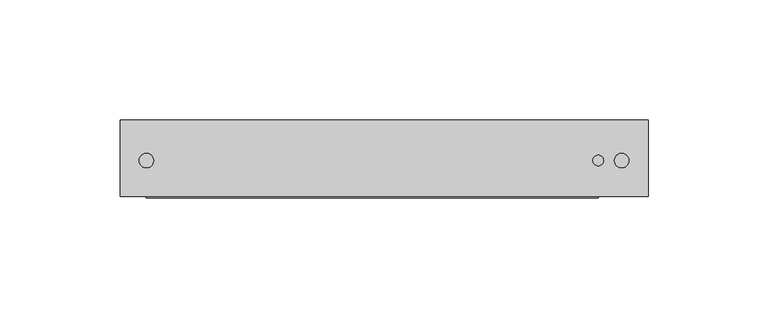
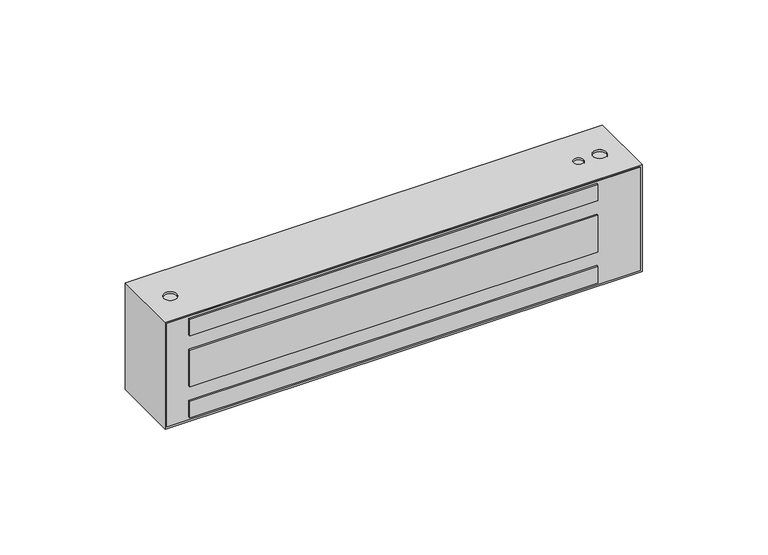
"""IFC4 building model written with IfcOpenShell, lengths in millimetres: proxy geometry, Электромагнитный_замок_ML-295K-2_с_уголком_AccordTec_R19 : Электромагнитный_замок_ML-295K-2_с_уголком_AccordTec_R19."""

from ifc_helpers import new_model, si_unit, frame, origin, place, context, project, spatial, polyline, circle_curve, outline, extrude, source, transform, mapped, element, save
from ifc_brep_helpers import plane_surface, revolved_surface, advanced_brep


def generic_models_b2814690(model_context):
    return source(origin(), model_context, "Body", "SolidModel", [
        extrude(outline(polyline([(199.25, -0.5), (11.0, -0.5), (11.0, 1.0), (199.25, 1.0), (199.25, -0.5)])), frame((0.0, 0.0, 42.0), z_axis=(0.0, 0.0, 1.0), x_axis=(1.0, 0.0, 0.0)), (0.0, 0.0, 1.0), 8.0),
        extrude(outline(polyline([(199.25, -0.5), (11.0, -0.5), (11.0, 1.0), (199.25, 1.0), (199.25, -0.5)])), frame((0.0, 0.0, 17.0), z_axis=(0.0, 0.0, 1.0), x_axis=(1.0, 0.0, 0.0)), (0.0, 0.0, 1.0), 18.0),
        extrude(outline(polyline([(199.25, -0.5), (11.0, -0.5), (11.0, 1.0), (199.25, 1.0), (199.25, -0.5)])), frame((0.0, 0.0, 2.0), z_axis=(0.0, 0.0, 1.0), x_axis=(1.0, 0.0, 0.0)), (0.0, 0.0, 1.0), 8.0),
        extrude(outline(polyline([(51.2, 0.8), (0.8, 0.8), (0.8, 219.2), (51.2, 219.2), (51.2, 0.8)]), holes=[polyline([(50.0, 11.0), (50.0, 199.25), (42.0, 199.25), (42.0, 11.0), (50.0, 11.0)]), polyline([(17.0, 11.0), (35.0, 11.0), (35.0, 199.25), (17.0, 199.25), (17.0, 11.0)]), polyline([(10.0, 11.0), (10.0, 199.25), (2.0, 199.25), (2.0, 11.0), (10.0, 11.0)])]), frame((0.0, 0.0, 0.0), z_axis=(0.0, 1.0, 0.0), x_axis=(0.0, 0.0, 1.0)), (0.0, 0.0, 1.0), 1.0),
        advanced_brep(
        [(220.0, 32.0, 52.0), (0.0, 32.0, 52.0), (0.0, 0.0, 52.0), (220.0, 0.0, 52.0), (8.0, 15.0, 52.0), (14.0, 15.0, 52.0), (197.0, 15.0, 52.0), (201.5, 15.0, 52.0), (206.0, 15.0, 52.0), (212.0, 15.0, 52.0), (220.0, 32.0, 0.0), (220.0, 0.0, 0.0), (0.0, 0.0, 0.0), (0.0, 32.0, 0.0), (203.0, 15.0, 0.0), (215.0, 15.0, 0.0), (5.0, 15.0, 0.0), (17.0, 15.0, 0.0), (0.8, 0.0, 51.2), (219.2, 0.0, 51.2), (219.2, 0.0, 0.8), (0.8, 0.0, 0.8), (203.0, 15.0, 1.0), (215.0, 15.0, 1.0), (5.0, 15.0, 1.0), (17.0, 15.0, 1.0), (219.2, 1.0, 51.2), (0.8, 1.0, 51.2), (0.8, 1.0, 0.8), (219.2, 1.0, 0.8), (8.0, 15.0, 51.0), (14.0, 15.0, 51.0), (197.0, 15.0, 51.0), (201.5, 15.0, 51.0), (206.0, 15.0, 51.0), (212.0, 15.0, 51.0)],
        [
            (0, 1),
            (1, 2),
            (2, 3),
            (3, 0),
            (4, 5, circle_curve(frame((11.0, 15.0, 52.0), z_axis=(0.0, 0.0, -1.0), x_axis=(1.0, 0.0, 0.0)), 3.0)),
            (5, 4, circle_curve(frame((11.0, 15.0, 52.0), z_axis=(0.0, 0.0, -1.0), x_axis=(1.0, 0.0, 0.0)), 3.0)),
            (6, 7, circle_curve(frame((199.25, 15.0, 52.0), z_axis=(0.0, 0.0, -1.0), x_axis=(1.0, 0.0, 0.0)), 2.25)),
            (7, 6, circle_curve(frame((199.25, 15.0, 52.0), z_axis=(0.0, 0.0, -1.0), x_axis=(1.0, 0.0, 0.0)), 2.25)),
            (8, 9, circle_curve(frame((209.0, 15.0, 52.0), z_axis=(0.0, 0.0, -1.0), x_axis=(1.0, 0.0, 0.0)), 3.0)),
            (9, 8, circle_curve(frame((209.0, 15.0, 52.0), z_axis=(0.0, 0.0, -1.0), x_axis=(1.0, 0.0, 0.0)), 3.0)),
            (10, 11),
            (11, 12),
            (12, 13),
            (13, 10),
            (14, 15, circle_curve(frame((209.0, 15.0, 0.0), z_axis=(0.0, 0.0, 1.0), x_axis=(1.0, 0.0, 0.0)), 6.0)),
            (15, 14, circle_curve(frame((209.0, 15.0, 0.0), z_axis=(0.0, 0.0, 1.0), x_axis=(1.0, 0.0, 0.0)), 6.0)),
            (16, 17, circle_curve(frame((11.0, 15.0, 0.0), z_axis=(0.0, 0.0, 1.0), x_axis=(1.0, 0.0, 0.0)), 6.0)),
            (17, 16, circle_curve(frame((11.0, 15.0, 0.0), z_axis=(0.0, 0.0, 1.0), x_axis=(1.0, 0.0, 0.0)), 6.0)),
            (0, 10),
            (13, 1),
            (12, 2),
            (11, 3),
            (18, 19),
            (19, 20),
            (20, 21),
            (21, 18),
            (22, 23, circle_curve(frame((209.0, 15.0, 1.0), z_axis=(0.0, 0.0, -1.0), x_axis=(1.0, 0.0, 0.0)), 6.0)),
            (23, 22, circle_curve(frame((209.0, 15.0, 1.0), z_axis=(0.0, 0.0, -1.0), x_axis=(1.0, 0.0, 0.0)), 6.0)),
            (24, 25, circle_curve(frame((11.0, 15.0, 1.0), z_axis=(0.0, 0.0, -1.0), x_axis=(1.0, 0.0, 0.0)), 6.0)),
            (25, 24, circle_curve(frame((11.0, 15.0, 1.0), z_axis=(0.0, 0.0, -1.0), x_axis=(1.0, 0.0, 0.0)), 6.0)),
            (23, 15),
            (14, 22),
            (25, 17),
            (16, 24),
            (26, 27),
            (27, 28),
            (28, 29),
            (29, 26),
            (26, 19),
            (18, 27),
            (21, 28),
            (20, 29),
            (30, 31, circle_curve(frame((11.0, 15.0, 51.0), z_axis=(0.0, 0.0, 1.0), x_axis=(1.0, 0.0, 0.0)), 3.0)),
            (31, 30, circle_curve(frame((11.0, 15.0, 51.0), z_axis=(0.0, 0.0, 1.0), x_axis=(1.0, 0.0, 0.0)), 3.0)),
            (32, 33, circle_curve(frame((199.25, 15.0, 51.0), z_axis=(0.0, 0.0, 1.0), x_axis=(1.0, 0.0, 0.0)), 2.25)),
            (33, 32, circle_curve(frame((199.25, 15.0, 51.0), z_axis=(0.0, 0.0, 1.0), x_axis=(1.0, 0.0, 0.0)), 2.25)),
            (34, 35, circle_curve(frame((209.0, 15.0, 51.0), z_axis=(0.0, 0.0, 1.0), x_axis=(1.0, 0.0, 0.0)), 3.0)),
            (35, 34, circle_curve(frame((209.0, 15.0, 51.0), z_axis=(0.0, 0.0, 1.0), x_axis=(1.0, 0.0, 0.0)), 3.0)),
            (31, 5),
            (4, 30),
            (33, 7),
            (6, 32),
            (35, 9),
            (8, 34),
        ],
        [
            plane_surface(frame((0.0, 32.0, 52.0), z_axis=(0.0, 0.0, 1.0), x_axis=(-1.0, 0.0, 0.0))),
            plane_surface(frame((0.0, 32.0, 0.0), z_axis=(0.0, 0.0, -1.0), x_axis=(1.0, 0.0, 0.0))),
            plane_surface(frame((220.0, 32.0, 52.0), z_axis=(0.0, 1.0, 0.0), x_axis=(0.0, 0.0, -1.0))),
            plane_surface(frame((0.0, 32.0, 52.0), z_axis=(-1.0, 0.0, 0.0), x_axis=(0.0, 0.0, -1.0))),
            plane_surface(frame((0.0, 0.0, 52.0), z_axis=(0.0, -1.0, 0.0), x_axis=(0.0, 0.0, -1.0))),
            plane_surface(frame((220.0, 0.0, 52.0), z_axis=(1.0, 0.0, 0.0), x_axis=(0.0, 0.0, -1.0))),
            plane_surface(frame((215.0, 15.0, 1.0), z_axis=(0.0, 0.0, -1.0), x_axis=(0.0, 1.0, 0.0))),
            revolved_surface(polyline([(215.0, 15.0, 1.0), (215.0, 15.0, 0.0)]), (209.0, 15.0, -1.0), (0.0, 0.0, 1.0)),
            revolved_surface(polyline([(17.0, 15.0, 1.0), (17.0, 15.0, 0.0)]), (11.0, 15.0, 0.0), (0.0, 0.0, 1.0)),
            plane_surface(frame((0.8, 1.0, 51.2), z_axis=(0.0, -1.0, 0.0), x_axis=(1.0, 0.0, 0.0))),
            plane_surface(frame((219.2, 0.0, 51.2), z_axis=(0.0, 0.0, -1.0), x_axis=(0.0, 1.0, 0.0))),
            plane_surface(frame((0.8, 0.0, 51.2), z_axis=(1.0, 0.0, 0.0), x_axis=(0.0, 1.0, 0.0))),
            plane_surface(frame((0.8, 0.0, 0.8), z_axis=(0.0, 0.0, 1.0), x_axis=(0.0, 1.0, 0.0))),
            plane_surface(frame((219.2, 0.0, 0.8), z_axis=(-1.0, 0.0, 0.0), x_axis=(0.0, 1.0, 0.0))),
            plane_surface(frame((14.0, 15.0, 51.0), z_axis=(0.0, 0.0, 1.0), x_axis=(0.0, -1.0, 0.0))),
            revolved_surface(polyline([(14.0, 15.0, 51.0), (14.0, 15.0, 52.0)]), (11.0, 15.0, 53.0), (0.0, 0.0, -1.0)),
            revolved_surface(polyline([(201.5, 15.0, 51.0), (201.5, 15.0, 52.0)]), (199.25, 15.0, 52.0), (0.0, 0.0, -1.0)),
            revolved_surface(polyline([(212.0, 15.0, 51.0), (212.0, 15.0, 52.0)]), (209.0, 15.0, 52.0), (0.0, 0.0, -1.0)),
        ],
        [
            (0, [[1, 2, 3, 4], [5, 6], [7, 8], [9, 10]]),
            (1, [[11, 12, 13, 14], [15, 16], [17, 18]]),
            (2, [[-1, 19, -14, 20]]),
            (3, [[-2, -20, -13, 21]]),
            (4, [[-3, -21, -12, 22], [23, 24, 25, 26]]),
            (5, [[-4, -22, -11, -19]]),
            (6, [[27, 28]]),
            (6, [[29, 30]]),
            (7, [[-28, 31, -15, 32]]),
            (7, [[-27, -32, -16, -31]]),
            (8, [[-30, 33, -17, 34]]),
            (8, [[-29, -34, -18, -33]]),
            (9, [[35, 36, 37, 38]]),
            (10, [[-35, 39, -23, 40]]),
            (11, [[-36, -40, -26, 41]]),
            (12, [[-37, -41, -25, 42]]),
            (13, [[-38, -42, -24, -39]]),
            (14, [[43, 44]]),
            (14, [[45, 46]]),
            (14, [[47, 48]]),
            (15, [[-44, 49, -5, 50]]),
            (15, [[-43, -50, -6, -49]]),
            (16, [[-46, 51, -7, 52]]),
            (16, [[-45, -52, -8, -51]]),
            (17, [[-48, 53, -9, 54]]),
            (17, [[-47, -54, -10, -53]]),
        ],
    ),
    ])


if __name__ == "__main__":
    model = new_model("IFC4")
    model_context = context("Model", 3, world=origin())
    ifc_project = project(units=[si_unit("LENGTHUNIT", "METRE", prefix="MILLI")], contexts=[model_context])
    site = spatial("IfcSite", under=ifc_project)
    building = spatial("IfcBuilding", under=site)
    placement = place(None, origin())
    generic_models_shape = generic_models_b2814690(model_context)
    element("IfcBuildingElementProxy", 1, Name="Электромагнитный_замок_ML-295K-2_с_уголком_AccordTec_R19 : Электромагнитный_замок_ML-295K-2_с_уголком_AccordTec_R19", ObjectType="Электромагнитный_замок_ML-295K-2_с_уголком_AccordTec_R19 : Электромагнитный_замок_ML-295K-2_с_уголком_AccordTec_R19", at=placement, inside=building, context=model_context, shape_type="MappedRepresentation", body=[
        mapped(generic_models_shape, transform((0.0, 0.0, 0.0), x_axis=(1.0, 0.0, 0.0), y_axis=(0.0, 1.0, 0.0), z_axis=(0.0, 0.0, 1.0))),
    ])
    save(model, "model.ifc")
